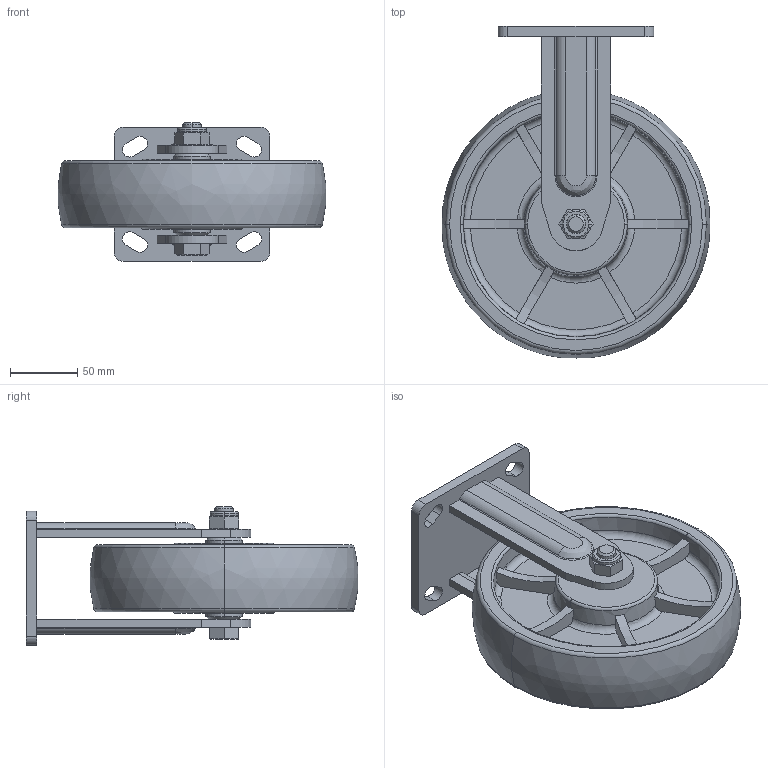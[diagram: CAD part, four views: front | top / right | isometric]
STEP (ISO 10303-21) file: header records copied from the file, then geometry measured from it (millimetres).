
FILE_DESCRIPTION((''),'2;1');
FILE_NAME('78106_ASM','2021-06-01T',('lenovo'),(''),'PRO/ENGINEER BY PARAMETRIC TECHNOLOGY CORPORATION, 2010280','PRO/ENGINEER BY PARAMETRIC TECHNOLOGY CORPORATION, 2010280','');
FILE_SCHEMA(('CONFIG_CONTROL_DESIGN'));
Length unit declared in the file: millimetre
Products named in the file (6): 780C00; 788C10; 788-926; 780-33; 780-34; 78106_ASM
Assembly tree (5 placements, depth 2):
  78106_ASM
    780C00
    788C10
    788-926
    780-33
    780-34
Bounding box: 199.35 x 247.17 x 103.5 mm (x, y, z)
Volume: 1166396.5 mm3; surface area: 193027.9 mm2
Topology: 6 solids, 6 shells, 221 faces, 570 edges, 366 vertices
Faces by surface type: plane 91, cylinder 56, torus 46, cone 24, bspline 4
Entity records: 7633 total; most frequent: CARTESIAN_POINT 2174, ORIENTED_EDGE 1140, DIRECTION 1112, EDGE_CURVE 570, AXIS2_PLACEMENT_3D 460, VERTEX_POINT 366, EDGE_LOOP 240, CIRCLE 232
